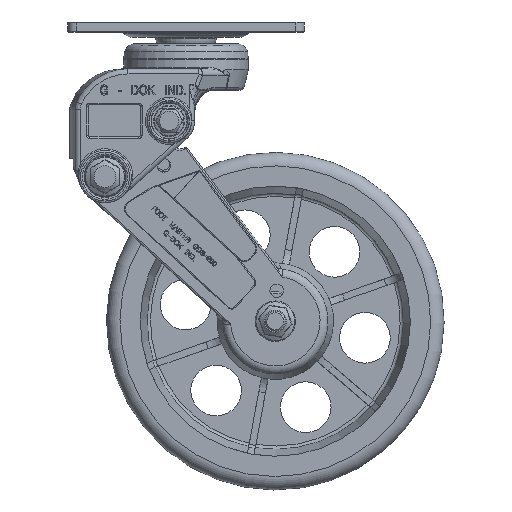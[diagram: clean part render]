
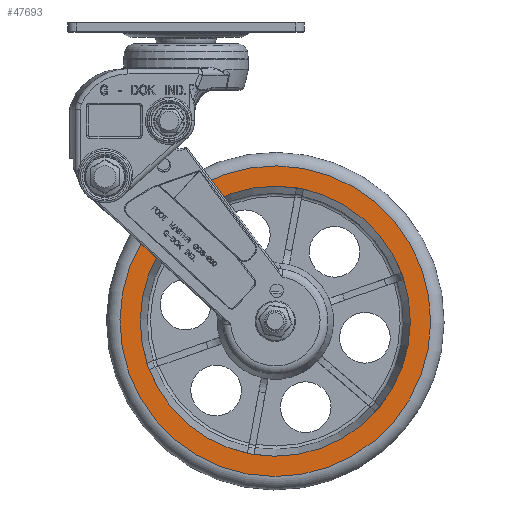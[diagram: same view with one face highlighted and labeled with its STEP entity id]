
A CAD part, left-side view. The second image highlights one B-rep face of the part: STEP entity #47693.
In plain terms, the highlighted planar face has unit normal (-1, 0, 0).
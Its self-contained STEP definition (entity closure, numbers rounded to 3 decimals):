
#4369=FACE_BOUND('',#11183,.T.);
#5576=CIRCLE('',#50085,9.2);
#5597=CIRCLE('',#50120,8.);
#5598=CIRCLE('',#50121,8.);
#5599=CIRCLE('',#50122,8.);
#5600=CIRCLE('',#50123,8.);
#5601=CIRCLE('',#50124,8.);
#5602=CIRCLE('',#50125,8.);
#8261=FACE_OUTER_BOUND('',#11182,.T.);
#11182=EDGE_LOOP('',(#41104));
#11183=EDGE_LOOP('',(#41105,#41106,#41107,#41108,#41109,#41110));
#21490=VERTEX_POINT('',#95007);
#21511=VERTEX_POINT('',#95063);
#21512=VERTEX_POINT('',#95064);
#21513=VERTEX_POINT('',#95066);
#21514=VERTEX_POINT('',#95068);
#21515=VERTEX_POINT('',#95070);
#21516=VERTEX_POINT('',#95072);
#28064=EDGE_CURVE('',#21490,#21490,#5576,.T.);
#28085=EDGE_CURVE('',#21511,#21512,#5597,.T.);
#28086=EDGE_CURVE('',#21513,#21511,#5598,.T.);
#28087=EDGE_CURVE('',#21514,#21513,#5599,.T.);
#28088=EDGE_CURVE('',#21515,#21514,#5600,.T.);
#28089=EDGE_CURVE('',#21516,#21515,#5601,.T.);
#28090=EDGE_CURVE('',#21512,#21516,#5602,.T.);
#41104=ORIENTED_EDGE('',*,*,#28064,.F.);
#41105=ORIENTED_EDGE('',*,*,#28085,.F.);
#41106=ORIENTED_EDGE('',*,*,#28086,.F.);
#41107=ORIENTED_EDGE('',*,*,#28087,.F.);
#41108=ORIENTED_EDGE('',*,*,#28088,.F.);
#41109=ORIENTED_EDGE('',*,*,#28089,.F.);
#41110=ORIENTED_EDGE('',*,*,#28090,.F.);
#42624=PLANE('',#50119);
#47693=ADVANCED_FACE('',(#8261,#4369),#42624,.T.);
#50085=AXIS2_PLACEMENT_3D('',#95008,#57794,#57795);
#50119=AXIS2_PLACEMENT_3D('',#95062,#57862,#57863);
#50120=AXIS2_PLACEMENT_3D('',#95065,#57864,#57865);
#50121=AXIS2_PLACEMENT_3D('',#95067,#57866,#57867);
#50122=AXIS2_PLACEMENT_3D('',#95069,#57868,#57869);
#50123=AXIS2_PLACEMENT_3D('',#95071,#57870,#57871);
#50124=AXIS2_PLACEMENT_3D('',#95073,#57872,#57873);
#50125=AXIS2_PLACEMENT_3D('',#95074,#57874,#57875);
#57794=DIRECTION('center_axis',(1.,0.,0.));
#57795=DIRECTION('ref_axis',(0.,0.943,-0.334));
#57862=DIRECTION('center_axis',(-1.,0.,0.));
#57863=DIRECTION('ref_axis',(0.,0.334,0.943));
#57864=DIRECTION('center_axis',(-1.,0.,0.));
#57865=DIRECTION('ref_axis',(0.,-0.943,0.334));
#57866=DIRECTION('center_axis',(-1.,0.,0.));
#57867=DIRECTION('ref_axis',(0.,-0.943,0.334));
#57868=DIRECTION('center_axis',(-1.,0.,0.));
#57869=DIRECTION('ref_axis',(0.,-0.943,0.334));
#57870=DIRECTION('center_axis',(-1.,0.,0.));
#57871=DIRECTION('ref_axis',(0.,-0.943,0.334));
#57872=DIRECTION('center_axis',(-1.,0.,0.));
#57873=DIRECTION('ref_axis',(0.,-0.943,0.334));
#57874=DIRECTION('center_axis',(-1.,0.,0.));
#57875=DIRECTION('ref_axis',(0.,-0.943,0.334));
#95007=CARTESIAN_POINT('',(-3.324,-10.064,-0.79));
#95008=CARTESIAN_POINT('Origin',(-3.324,-1.392,-3.861));
#95062=CARTESIAN_POINT('Origin',(-3.324,-9.168,-1.107));
#95063=CARTESIAN_POINT('',(-3.324,-8.933,-1.191));
#95064=CARTESIAN_POINT('',(-3.324,-2.849,4.005));
#95065=CARTESIAN_POINT('Origin',(-3.324,-1.392,-3.861));
#95066=CARTESIAN_POINT('',(-3.324,-7.475,-9.057));
#95067=CARTESIAN_POINT('Origin',(-3.324,-1.392,-3.861));
#95068=CARTESIAN_POINT('',(-3.324,0.066,-11.727));
#95069=CARTESIAN_POINT('Origin',(-3.324,-1.392,-3.861));
#95070=CARTESIAN_POINT('',(-3.324,6.149,-6.532));
#95071=CARTESIAN_POINT('Origin',(-3.324,-1.392,-3.861));
#95072=CARTESIAN_POINT('',(-3.324,4.692,1.334));
#95073=CARTESIAN_POINT('Origin',(-3.324,-1.392,-3.861));
#95074=CARTESIAN_POINT('Origin',(-3.324,-1.392,-3.861));
